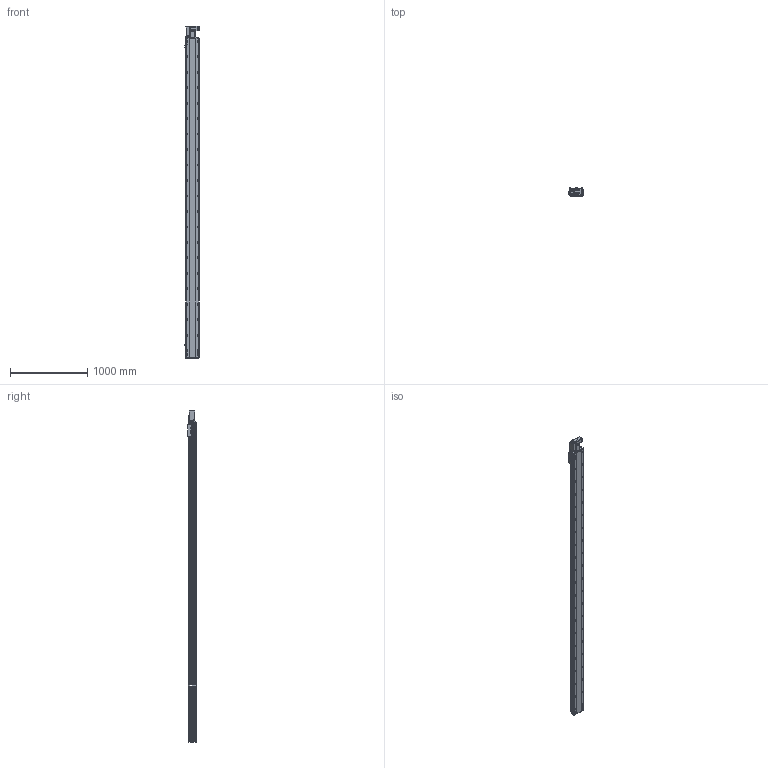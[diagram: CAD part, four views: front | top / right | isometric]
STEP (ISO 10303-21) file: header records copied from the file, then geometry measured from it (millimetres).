
FILE_DESCRIPTION (( 'STEP AP214' ), '1' );
FILE_NAME ('RTB17S-XX-3850-L-M40-C4.STEP', '2025-12-11T06:11:23', ( '' ), ( '' ), 'SwSTEP 2.0', 'SolidWorks 2018', '' );
FILE_SCHEMA (( 'AUTOMOTIVE_DESIGN' ));
Length unit declared in the file: millimetre
Products named in the file (14): OMRON EE-SX672 传感器^RTB17S-XX-XX-L-M40-C4; RTH13-BL-012覜茼え俋离^RTB17S-XX-XX-L-M40-C4; RTB17S-XX-3850-L-M40-C4; RTB17S-L-004佪裝蹟譫蟀諉釱^RTB17S-XX-XX-L-M40-C4; RTB17-R-011菁釱^RTB17S-XX-XX-L-M40-C4; RTB14-L-005P--轴承塑胶压盖^RTB17S-L-皮带座装配-400W_RTB17S-XX-XX-L-M40-C4; RTB17S-L-001耜醱啣^RTB17S-XX-XX-L-M40-C4; RMP17S-L-014-T20--々湍釱^RTB17S-L-々湍釱蚾饜-400W_RTB17S-XX-XX-L-M40-C4; RTB17S-L-007奻裔^RTB17S-XX-XX-L-M40-C4; RTB14-L-008-M20--萇儂啣^RTB17S-L-々湍釱蚾饜-400W_RTB17S-XX-XX-L-M40-C4; RTB14-L-017P^RTB17S-L-々湍釱蚾饜-400W_RTB17S-XX-XX-L-M40-C4; RTB17S-L-々湍釱蚾饜-400W^RTB17S-XX-XX-L-M40-C4; RTB14-L-018P^RTB17S-L-々湍釱蚾饜-400W_RTB17S-XX-XX-L-M40-C4; 400W侜督萇儂^RTB17S-XX-XX-L-M40-C4
Assembly tree (16 placements, depth 3):
  RTB17S-XX-3850-L-M40-C4
    RTB17-R-011菁釱^RTB17S-XX-XX-L-M40-C4
    RTB17S-L-007奻裔^RTB17S-XX-XX-L-M40-C4
    OMRON EE-SX672 传感器^RTB17S-XX-XX-L-M40-C4  x3
    RTB17S-L-001耜醱啣^RTB17S-XX-XX-L-M40-C4
    400W侜督萇儂^RTB17S-XX-XX-L-M40-C4
    RTB17S-L-004佪裝蹟譫蟀諉釱^RTB17S-XX-XX-L-M40-C4
    RTH13-BL-012覜茼え俋离^RTB17S-XX-XX-L-M40-C4
    RTB17S-L-々湍釱蚾饜-400W^RTB17S-XX-XX-L-M40-C4
      RMP17S-L-014-T20--々湍釱^RTB17S-L-々湍釱蚾饜-400W_RTB17S-XX-XX-L-M40-C4
      RTB14-L-005P--轴承塑胶压盖^RTB17S-L-皮带座装配-400W_RTB17S-XX-XX-L-M40-C4
      RTB14-L-008-M20--萇儂啣^RTB17S-L-々湍釱蚾饜-400W_RTB17S-XX-XX-L-M40-C4
      RTB14-L-017P^RTB17S-L-々湍釱蚾饜-400W_RTB17S-XX-XX-L-M40-C4  x2
      RTB14-L-018P^RTB17S-L-々湍釱蚾饜-400W_RTB17S-XX-XX-L-M40-C4
Bounding box: 186 x 108 x 4291 mm (x, y, z)
Volume: 35610601.2 mm3; surface area: 4034343.9 mm2
Topology: 15 solids, 15 shells, 2445 faces, 6897 edges, 4509 vertices
Faces by surface type: plane 1098, cylinder 899, bspline 301, cone 139, torus 8
Entity records: 74153 total; most frequent: CARTESIAN_POINT 21302, ORIENTED_EDGE 10638, DIRECTION 9746, EDGE_CURVE 5319, VERTEX_POINT 3497, AXIS2_PLACEMENT_3D 3427, VECTOR 2892, LINE 2892
